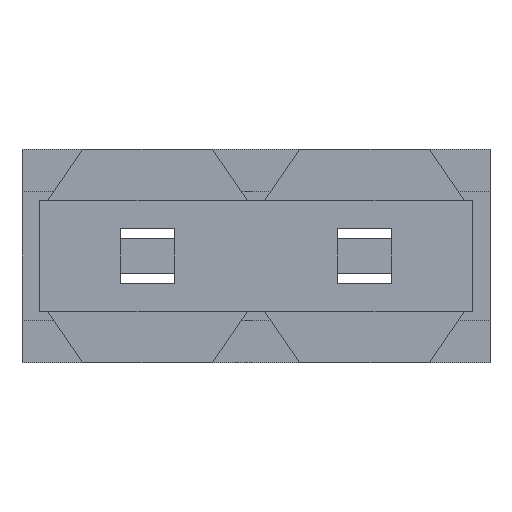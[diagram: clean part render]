
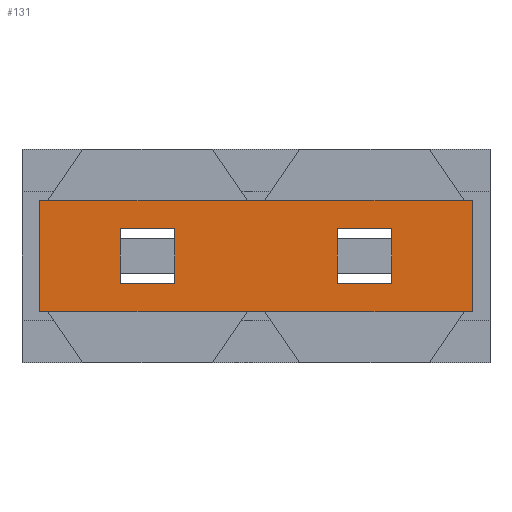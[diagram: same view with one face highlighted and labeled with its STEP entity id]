
A CAD part, front view. The second image highlights one B-rep face of the part: STEP entity #131.
In plain terms, the highlighted planar face has unit normal (0, -1, 0).
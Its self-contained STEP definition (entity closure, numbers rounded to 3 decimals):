
#61=FACE_BOUND('',#559,.T.);
#62=FACE_BOUND('',#560,.T.);
#63=FACE_BOUND('',#561,.T.);
#131=ADVANCED_FACE('',(#61,#62,#63),#273,.T.);
#273=PLANE('',#2998);
#559=EDGE_LOOP('',(#1015,#1016,#1017,#1018));
#560=EDGE_LOOP('',(#1019,#1020,#1021,#1022,#1023,#1024,#1025,#1026,#1027,
#1028,#1029,#1030));
#561=EDGE_LOOP('',(#1031,#1032,#1033,#1034));
#1015=ORIENTED_EDGE('',*,*,#1848,.T.);
#1016=ORIENTED_EDGE('',*,*,#1846,.T.);
#1017=ORIENTED_EDGE('',*,*,#1843,.T.);
#1018=ORIENTED_EDGE('',*,*,#1840,.T.);
#1019=ORIENTED_EDGE('',*,*,#1940,.F.);
#1020=ORIENTED_EDGE('',*,*,#1941,.F.);
#1021=ORIENTED_EDGE('',*,*,#1942,.F.);
#1022=ORIENTED_EDGE('',*,*,#1943,.F.);
#1023=ORIENTED_EDGE('',*,*,#1944,.F.);
#1024=ORIENTED_EDGE('',*,*,#1945,.F.);
#1025=ORIENTED_EDGE('',*,*,#1935,.F.);
#1026=ORIENTED_EDGE('',*,*,#1835,.F.);
#1027=ORIENTED_EDGE('',*,*,#1833,.F.);
#1028=ORIENTED_EDGE('',*,*,#1830,.F.);
#1029=ORIENTED_EDGE('',*,*,#1827,.F.);
#1030=ORIENTED_EDGE('',*,*,#1825,.F.);
#1031=ORIENTED_EDGE('',*,*,#1946,.T.);
#1032=ORIENTED_EDGE('',*,*,#1947,.T.);
#1033=ORIENTED_EDGE('',*,*,#1948,.T.);
#1034=ORIENTED_EDGE('',*,*,#1949,.T.);
#1483=VERTEX_POINT('',#3813);
#1486=VERTEX_POINT('',#3822);
#1543=VERTEX_POINT('',#3997);
#1544=VERTEX_POINT('',#4001);
#1546=VERTEX_POINT('',#4007);
#1548=VERTEX_POINT('',#4016);
#1549=VERTEX_POINT('',#4020);
#1552=VERTEX_POINT('',#4025);
#1553=VERTEX_POINT('',#4029);
#1555=VERTEX_POINT('',#4035);
#1623=VERTEX_POINT('',#4210);
#1626=VERTEX_POINT('',#4218);
#1627=VERTEX_POINT('',#4222);
#1628=VERTEX_POINT('',#4224);
#1629=VERTEX_POINT('',#4226);
#1630=VERTEX_POINT('',#4228);
#1631=VERTEX_POINT('',#4231);
#1632=VERTEX_POINT('',#4232);
#1633=VERTEX_POINT('',#4234);
#1634=VERTEX_POINT('',#4236);
#1825=EDGE_CURVE('',#1543,#1486,#2233,.T.);
#1827=EDGE_CURVE('',#1486,#1544,#2235,.T.);
#1830=EDGE_CURVE('',#1544,#1546,#2238,.T.);
#1833=EDGE_CURVE('',#1546,#1483,#2241,.T.);
#1835=EDGE_CURVE('',#1483,#1548,#2243,.T.);
#1840=EDGE_CURVE('',#1549,#1552,#2248,.T.);
#1843=EDGE_CURVE('',#1553,#1549,#2251,.T.);
#1846=EDGE_CURVE('',#1555,#1553,#2254,.T.);
#1848=EDGE_CURVE('',#1552,#1555,#2256,.T.);
#1935=EDGE_CURVE('',#1548,#1623,#2343,.T.);
#1940=EDGE_CURVE('',#1626,#1543,#2348,.T.);
#1941=EDGE_CURVE('',#1627,#1626,#2349,.T.);
#1942=EDGE_CURVE('',#1628,#1627,#2350,.T.);
#1943=EDGE_CURVE('',#1629,#1628,#2351,.T.);
#1944=EDGE_CURVE('',#1630,#1629,#2352,.T.);
#1945=EDGE_CURVE('',#1623,#1630,#2353,.T.);
#1946=EDGE_CURVE('',#1631,#1632,#2354,.T.);
#1947=EDGE_CURVE('',#1632,#1633,#2355,.T.);
#1948=EDGE_CURVE('',#1633,#1634,#2356,.T.);
#1949=EDGE_CURVE('',#1634,#1631,#2357,.T.);
#2233=LINE('',#3996,#2641);
#2235=LINE('',#4000,#2643);
#2238=LINE('',#4006,#2646);
#2241=LINE('',#4012,#2649);
#2243=LINE('',#4015,#2651);
#2248=LINE('',#4026,#2656);
#2251=LINE('',#4032,#2659);
#2254=LINE('',#4038,#2662);
#2256=LINE('',#4041,#2664);
#2343=LINE('',#4209,#2751);
#2348=LINE('',#4219,#2756);
#2349=LINE('',#4221,#2757);
#2350=LINE('',#4223,#2758);
#2351=LINE('',#4225,#2759);
#2352=LINE('',#4227,#2760);
#2353=LINE('',#4229,#2761);
#2354=LINE('',#4230,#2762);
#2355=LINE('',#4233,#2763);
#2356=LINE('',#4235,#2764);
#2357=LINE('',#4237,#2765);
#2641=VECTOR('',#3260,1.);
#2643=VECTOR('',#3264,1.);
#2646=VECTOR('',#3269,1.);
#2649=VECTOR('',#3274,1.);
#2651=VECTOR('',#3278,1.);
#2656=VECTOR('',#3285,1.);
#2659=VECTOR('',#3290,1.);
#2662=VECTOR('',#3295,1.);
#2664=VECTOR('',#3299,1.);
#2751=VECTOR('',#3416,1.);
#2756=VECTOR('',#3423,1.);
#2757=VECTOR('',#3426,1.);
#2758=VECTOR('',#3427,1.);
#2759=VECTOR('',#3428,1.);
#2760=VECTOR('',#3429,1.);
#2761=VECTOR('',#3430,1.);
#2762=VECTOR('',#3431,1.);
#2763=VECTOR('',#3432,1.);
#2764=VECTOR('',#3433,1.);
#2765=VECTOR('',#3434,1.);
#2998=AXIS2_PLACEMENT_3D('',#4238,#3435,#3436);
#3260=DIRECTION('',(1.,0.,0.));
#3264=DIRECTION('',(1.,0.,0.));
#3269=DIRECTION('',(0.,0.,-1.));
#3274=DIRECTION('',(-1.,0.,0.));
#3278=DIRECTION('',(-1.,0.,0.));
#3285=DIRECTION('',(0.,0.,1.));
#3290=DIRECTION('',(-1.,0.,0.));
#3295=DIRECTION('',(0.,0.,-1.));
#3299=DIRECTION('',(1.,0.,0.));
#3416=DIRECTION('',(-1.,0.,0.));
#3423=DIRECTION('',(1.,0.,0.));
#3426=DIRECTION('',(1.,0.,0.));
#3427=DIRECTION('',(1.,0.,0.));
#3428=DIRECTION('',(0.,0.,1.));
#3429=DIRECTION('',(-1.,0.,0.));
#3430=DIRECTION('',(-1.,0.,0.));
#3431=DIRECTION('',(1.,0.,0.));
#3432=DIRECTION('',(0.,0.,-1.));
#3433=DIRECTION('',(-1.,0.,0.));
#3434=DIRECTION('',(0.,0.,1.));
#3435=DIRECTION('',(0.,-1.,0.));
#3436=DIRECTION('',(0.,0.,1.));
#3813=CARTESIAN_POINT('',(-4.98,-9.5,-1.88));
#3822=CARTESIAN_POINT('',(-4.98,-9.5,-0.58));
#3996=CARTESIAN_POINT('',(-4.88,-9.5,-0.58));
#3997=CARTESIAN_POINT('',(-7.32,-9.5,-0.58));
#4000=CARTESIAN_POINT('',(-4.88,-9.5,-0.58));
#4001=CARTESIAN_POINT('',(-4.88,-9.5,-0.58));
#4006=CARTESIAN_POINT('',(-4.88,-9.5,-0.58));
#4007=CARTESIAN_POINT('',(-4.88,-9.5,-1.88));
#4012=CARTESIAN_POINT('',(-4.88,-9.5,-1.88));
#4015=CARTESIAN_POINT('',(-4.88,-9.5,-1.88));
#4016=CARTESIAN_POINT('',(-7.32,-9.5,-1.88));
#4020=CARTESIAN_POINT('',(-6.47,-9.5,-1.55));
#4025=CARTESIAN_POINT('',(-6.47,-9.5,-0.91));
#4026=CARTESIAN_POINT('',(-6.47,-9.5,-0.91));
#4029=CARTESIAN_POINT('',(-5.83,-9.5,-1.55));
#4032=CARTESIAN_POINT('',(-5.83,-9.5,-1.55));
#4035=CARTESIAN_POINT('',(-5.83,-9.5,-0.91));
#4038=CARTESIAN_POINT('',(-5.83,-9.5,-0.91));
#4041=CARTESIAN_POINT('',(-5.83,-9.5,-0.91));
#4209=CARTESIAN_POINT('',(-7.52,-9.5,-1.88));
#4210=CARTESIAN_POINT('',(-7.52,-9.5,-1.88));
#4218=CARTESIAN_POINT('',(-7.52,-9.5,-0.58));
#4219=CARTESIAN_POINT('',(-4.88,-9.5,-0.58));
#4221=CARTESIAN_POINT('',(-7.42,-9.5,-0.58));
#4222=CARTESIAN_POINT('',(-9.86,-9.5,-0.58));
#4223=CARTESIAN_POINT('',(-7.42,-9.5,-0.58));
#4224=CARTESIAN_POINT('',(-9.96,-9.5,-0.58));
#4225=CARTESIAN_POINT('',(-9.96,-9.5,0.));
#4226=CARTESIAN_POINT('',(-9.96,-9.5,-1.88));
#4227=CARTESIAN_POINT('',(-10.06,-9.5,-1.88));
#4228=CARTESIAN_POINT('',(-9.86,-9.5,-1.88));
#4229=CARTESIAN_POINT('',(-7.42,-9.5,-1.88));
#4230=CARTESIAN_POINT('',(-8.37,-9.5,-0.91));
#4231=CARTESIAN_POINT('',(-9.01,-9.5,-0.91));
#4232=CARTESIAN_POINT('',(-8.37,-9.5,-0.91));
#4233=CARTESIAN_POINT('',(-8.37,-9.5,-0.91));
#4234=CARTESIAN_POINT('',(-8.37,-9.5,-1.55));
#4235=CARTESIAN_POINT('',(-8.37,-9.5,-1.55));
#4236=CARTESIAN_POINT('',(-9.01,-9.5,-1.55));
#4237=CARTESIAN_POINT('',(-9.01,-9.5,-0.91));
#4238=CARTESIAN_POINT('',(0.,-9.5,0.));
